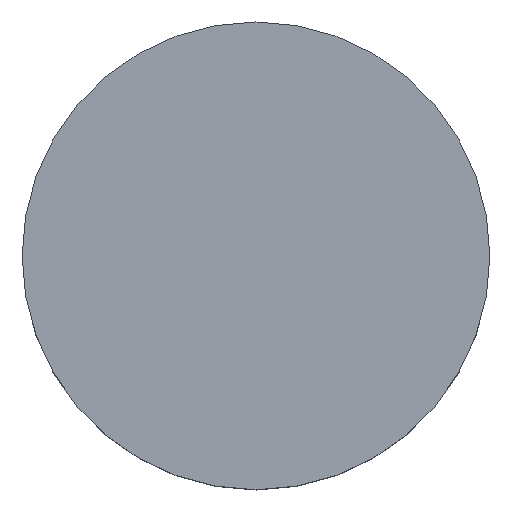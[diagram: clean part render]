
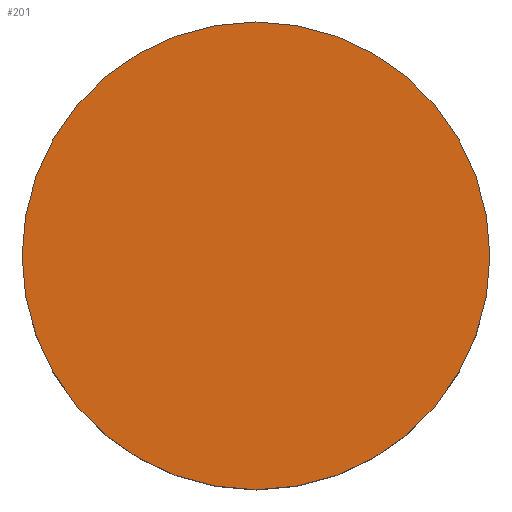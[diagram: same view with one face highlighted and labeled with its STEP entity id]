
A CAD part, top view. The second image highlights one B-rep face of the part: STEP entity #201.
In plain terms, the highlighted planar face has unit normal (0, 0, 1).
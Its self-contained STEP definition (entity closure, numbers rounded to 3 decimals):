
#201=ADVANCED_FACE('',(#257),#244,.T.);
#244=PLANE('',#710);
#257=FACE_OUTER_BOUND('',#289,.T.);
#289=EDGE_LOOP('',(#343,#344));
#343=ORIENTED_EDGE('',*,*,#565,.F.);
#344=ORIENTED_EDGE('',*,*,#566,.F.);
#511=VERTEX_POINT('',#1041);
#512=VERTEX_POINT('',#1042);
#565=EDGE_CURVE('',#511,#512,#649,.T.);
#566=EDGE_CURVE('',#512,#511,#650,.T.);
#649=CIRCLE('',#708,8.);
#650=CIRCLE('',#709,8.);
#708=AXIS2_PLACEMENT_3D('',#1040,#811,#812);
#709=AXIS2_PLACEMENT_3D('',#1043,#813,#814);
#710=AXIS2_PLACEMENT_3D('',#1044,#815,#816);
#811=DIRECTION('',(0.,0.,-1.));
#812=DIRECTION('',(0.,1.,0.));
#813=DIRECTION('',(0.,0.,-1.));
#814=DIRECTION('',(0.,-1.,0.));
#815=DIRECTION('',(0.,0.,1.));
#816=DIRECTION('',(0.,-1.,0.));
#1040=CARTESIAN_POINT('',(0.,0.,5.));
#1041=CARTESIAN_POINT('',(8.,0.,5.));
#1042=CARTESIAN_POINT('',(-8.,0.,5.));
#1043=CARTESIAN_POINT('',(0.,0.,5.));
#1044=CARTESIAN_POINT('',(0.,0.,5.));
